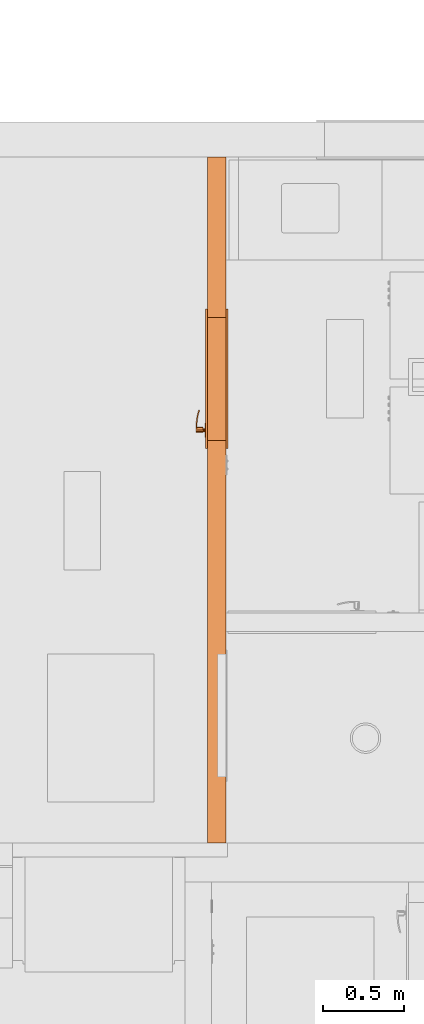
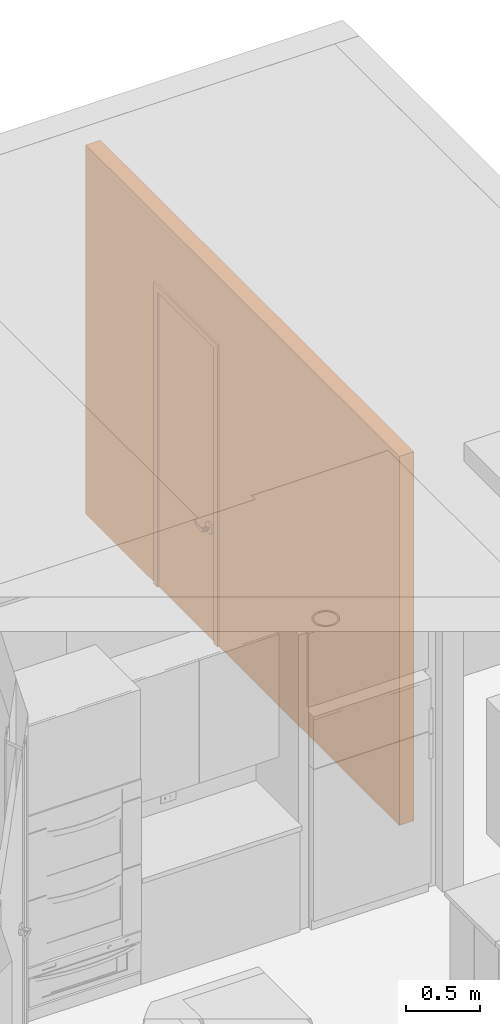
# One storey, part 97 of 103: 2 proxies.
"""IFC2X3 building model written with IfcOpenShell, lengths in inches."""

from ifc_helpers import new_model, entity, si_unit, converted_unit, derived_unit, money_unit, direction, frame, origin_with_axes, place, context, subcontext, project, spatial, open_shell, faceted_brep, surface_model, material, type_object, element, save


model = new_model("IFC2X3")

# Units and contexts
model_context = context("Model", 3, precision=0.00039370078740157, world=origin_with_axes(), true_north=direction((0.0, 1.0)))
plan_context = context("Plan", 3, precision=0.00039370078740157, world=origin_with_axes(), true_north=direction((0.0, 1.0)))
body_context = subcontext(model_context, "Body", "Model", "MODEL_VIEW")
ifc_project = project(units=[converted_unit("LENGTHUNIT", "INCH", entity("IfcPositiveLengthMeasure", 0.0254), si_unit("LENGTHUNIT", "METRE"), dimensions=[1, 0, 0, 0, 0, 0, 0]), converted_unit("AREAUNIT", "SQUARE_FOOT", entity("IfcPositiveLengthMeasure", 0.09290304), si_unit("AREAUNIT", "SQUARE_METRE"), dimensions=[2, 0, 0, 0, 0, 0, 0]), si_unit("PLANEANGLEUNIT", "RADIAN"), si_unit("SOLIDANGLEUNIT", "STERADIAN"), money_unit("USD"), converted_unit("TIMEUNIT", "Year", entity("IfcTimeMeasure", 31557600.0), si_unit("TIMEUNIT", "SECOND"), dimensions=[0, 0, 1, 0, 0, 0, 0]), si_unit("MASSUNIT", "GRAM", prefix="KILO"), si_unit("THERMODYNAMICTEMPERATUREUNIT", "DEGREE_CELSIUS"), si_unit("LUMINOUSINTENSITYUNIT", "LUMEN"), si_unit("ENERGYUNIT", "JOULE", prefix="MEGA"), derived_unit("SPECIFICHEATCAPACITYUNIT", [(si_unit("ENERGYUNIT", "JOULE"), 1), (si_unit("MASSUNIT", "GRAM", prefix="KILO"), -1), (si_unit("THERMODYNAMICTEMPERATUREUNIT", "KELVIN"), -1)])], contexts=[model_context, plan_context])

# Site, building, storey
site_placement = place(None, origin_with_axes())
site = spatial("IfcSite", under=ifc_project, at=site_placement, Name="Site", CompositionType="ELEMENT")
building_placement = place(site_placement, origin_with_axes())
building = spatial("IfcBuilding", under=site, at=building_placement, Name="Building", CompositionType="ELEMENT")
storey_placement = place(building_placement, frame((0.0, 0.0, 127.9999999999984), z_axis=(0.0, 0.0, 1.0), x_axis=(1.0, 0.0, 0.0)))
storey = spatial("IfcBuildingStorey", under=building, at=storey_placement, Name="Second Floor", CompositionType="ELEMENT", Elevation=128.0)

# Proxies
ifc_material = material(Name="Generic - Structural")
building_element_proxy_type_1 = type_object("IfcBuildingElementProxyType", Name="Generic - Structural 4 1/2\"", PredefinedType="NOTDEFINED")
proxy_1_placement = place(storey_placement, frame((164.9999999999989, 401.0009092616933, 0.0), z_axis=(0.0, 0.0, 1.0), x_axis=(0.0, 1.0, 0.0)))
element("IfcBuildingElementProxy", 1, at=proxy_1_placement, inside=storey, type_object=building_element_proxy_type_1, material=ifc_material, Name="SW - 132", context=body_context, shape_type="Brep", body=[
    faceted_brep([(97.99909073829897, 0.0, 0.0), (97.99909073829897, 0.0, 95.9999999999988), (127.9990907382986, 0.0, 95.9999999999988), (127.9990907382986, 0.0, 0.0), (166.9990907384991, 0.0, 0.0), (166.9990907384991, 0.0, 119.9999999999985), (0.0, 0.0, 119.9999999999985), (0.0, 0.0, 0.0), (97.99909073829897, 4.499999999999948, 0.0), (97.99909073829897, 4.499999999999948, 95.9999999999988), (127.9990907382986, 4.499999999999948, 95.9999999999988), (127.9990907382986, 4.499999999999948, 0.0), (166.9990907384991, 4.499999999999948, 0.0), (166.9990907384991, 4.499999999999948, 119.9999999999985), (0.0, 4.499999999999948, 119.9999999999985), (0.0, 4.499999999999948, 0.0)], [[[0, 1, 2, 3, 4, 5, 6, 7]], [[1, 0, 8, 9]], [[2, 1, 9, 10]], [[3, 2, 10, 11]], [[3, 11, 12, 4]], [[5, 4, 12, 13]], [[13, 14, 6, 5]], [[6, 14, 15, 7]], [[8, 0, 7, 15]], [[9, 8, 15, 14, 13, 12, 11, 10]]]),
])
building_element_proxy_type_2 = type_object("IfcBuildingElementProxyType", Name="D1", PredefinedType="NOTDEFINED")
proxy_2_placement = place(storey_placement, frame((164.9999999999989, 498.9999999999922, 0.0), z_axis=(0.0, 0.0, 1.0), x_axis=(0.0, 1.0, 0.0)))
element("IfcBuildingElementProxy", 2, at=proxy_2_placement, inside=storey, type_object=building_element_proxy_type_2, Name="D-09", context=body_context, shape_type="SurfaceModel", body=[
    faceted_brep([(-2.0, 4.99999999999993, 0.0), (0.0, 4.99999999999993, 0.0), (0.0, 4.499999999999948, 0.0), (-2.0, 4.499999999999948, 0.0), (-2.0, 4.999999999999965, 97.99999999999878), (0.0, 4.999999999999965, 95.9999999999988), (0.0, 4.499999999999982, 95.9999999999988), (-2.0, 4.499999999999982, 97.99999999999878)], [[[0, 1, 2, 3]], [[0, 4, 5, 1]], [[1, 5, 6, 2]], [[3, 2, 6, 7]], [[4, 0, 3, 7]], [[5, 4, 7, 6]]]),
    faceted_brep([(31.99999999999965, 4.999999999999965, 97.99999999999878), (29.99999999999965, 4.999999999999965, 95.9999999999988), (29.99999999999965, 4.499999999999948, 95.9999999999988), (31.99999999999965, 4.499999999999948, 97.99999999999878), (31.99999999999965, 4.99999999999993, 0.0), (29.99999999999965, 4.99999999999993, 0.0), (29.99999999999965, 4.499999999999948, 0.0), (31.99999999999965, 4.499999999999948, 0.0)], [[[0, 1, 2, 3]], [[0, 4, 5, 1]], [[1, 5, 6, 2]], [[3, 2, 6, 7]], [[4, 0, 3, 7]], [[5, 4, 7, 6]]]),
    faceted_brep([(-2.0, 4.999999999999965, 97.99999999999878), (0.0, 4.999999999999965, 95.9999999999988), (0.0, 4.499999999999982, 95.9999999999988), (-2.0, 4.499999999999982, 97.99999999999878), (31.99999999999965, 4.999999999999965, 97.99999999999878), (29.99999999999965, 4.999999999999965, 95.9999999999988), (29.99999999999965, 4.499999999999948, 95.9999999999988), (31.99999999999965, 4.499999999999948, 97.99999999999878)], [[[0, 1, 2, 3]], [[0, 4, 5, 1]], [[1, 5, 6, 2]], [[3, 2, 6, 7]], [[4, 0, 3, 7]], [[5, 4, 7, 6]]]),
    faceted_brep([(-2.0, -0.4999999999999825, 0.0), (-2.0, 0.0, 0.0), (0.0, 0.0, 0.0), (0.0, -0.4999999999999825, 0.0), (-2.0, -0.4999999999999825, 97.99999999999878), (-2.0, 0.0, 97.99999999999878), (0.0, 0.0, 95.9999999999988), (0.0, -0.4999999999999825, 95.9999999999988)], [[[0, 1, 2, 3]], [[4, 5, 1, 0]], [[1, 5, 6, 2]], [[3, 2, 6, 7]], [[0, 3, 7, 4]], [[7, 6, 5, 4]]]),
    faceted_brep([(31.99999999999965, -0.4999999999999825, 97.99999999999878), (31.99999999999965, 0.0, 97.99999999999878), (29.99999999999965, 0.0, 95.9999999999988), (29.99999999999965, -0.4999999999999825, 95.9999999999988), (31.99999999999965, -0.4999999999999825, 0.0), (31.99999999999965, 0.0, 0.0), (29.99999999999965, 0.0, 0.0), (29.99999999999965, -0.4999999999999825, 0.0)], [[[0, 1, 2, 3]], [[4, 5, 1, 0]], [[1, 5, 6, 2]], [[3, 2, 6, 7]], [[0, 3, 7, 4]], [[7, 6, 5, 4]]]),
    faceted_brep([(-2.0, -0.4999999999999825, 97.99999999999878), (-2.0, 0.0, 97.99999999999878), (0.0, 0.0, 95.9999999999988), (0.0, -0.4999999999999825, 95.9999999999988), (31.99999999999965, -0.4999999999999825, 97.99999999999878), (31.99999999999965, 0.0, 97.99999999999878), (29.99999999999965, 0.0, 95.9999999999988), (29.99999999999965, -0.4999999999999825, 95.9999999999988)], [[[0, 1, 2, 3]], [[4, 5, 1, 0]], [[1, 5, 6, 2]], [[3, 2, 6, 7]], [[0, 3, 7, 4]], [[7, 6, 5, 4]]]),
    faceted_brep([(0.0, 4.499999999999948, 0.0), (0.5000000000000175, 4.499999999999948, 0.0), (0.5000000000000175, 0.0, 0.0), (0.0, 0.0, 0.0), (0.0, 4.499999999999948, 95.49999999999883), (0.5000000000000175, 4.499999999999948, 95.49999999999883), (0.5000000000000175, 0.0, 95.49999999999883), (0.0, 0.0, 95.49999999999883)], [[[0, 1, 2, 3]], [[0, 4, 5, 1]], [[1, 5, 6, 2]], [[3, 2, 6, 7]], [[4, 0, 3, 7]], [[5, 4, 7, 6]]]),
    faceted_brep([(29.99999999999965, 4.499999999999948, 0.0), (29.99999999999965, 4.499999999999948, 95.49999999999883), (29.99999999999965, 0.0, 95.49999999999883), (29.99999999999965, 0.0, 0.0), (29.49999999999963, 4.499999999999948, 0.0), (29.49999999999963, 4.499999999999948, 95.49999999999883), (29.49999999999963, 0.0, 95.49999999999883), (29.49999999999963, 0.0, 0.0)], [[[0, 1, 2, 3]], [[0, 4, 5, 1]], [[1, 5, 6, 2]], [[3, 2, 6, 7]], [[4, 0, 3, 7]], [[5, 4, 7, 6]]]),
    faceted_brep([(0.0, 4.499999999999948, 95.9999999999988), (0.0, 4.499999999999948, 95.49999999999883), (0.0, 0.0, 95.49999999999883), (0.0, 0.0, 95.9999999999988), (29.99999999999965, 4.499999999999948, 95.9999999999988), (29.99999999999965, 4.499999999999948, 95.49999999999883), (29.49999999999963, 4.499999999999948, 95.49999999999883), (0.5000000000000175, 4.499999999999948, 95.49999999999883), (0.5000000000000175, 0.0, 95.49999999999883), (29.49999999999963, 0.0, 95.49999999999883), (29.99999999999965, 0.0, 95.49999999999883), (29.99999999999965, 0.0, 95.9999999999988)], [[[0, 1, 2, 3]], [[0, 4, 5, 6, 7, 1]], [[1, 7, 8, 2]], [[3, 2, 8, 9, 10, 11]], [[4, 0, 3, 11]], [[5, 4, 11, 10]], [[6, 5, 10, 9]], [[7, 6, 9, 8]]]),
    surface_model("IfcShellBasedSurfaceModel", [(4.051344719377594, 2.159448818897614, 36.89566929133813), (4.291338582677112, 2.159448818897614, 35.99999999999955), (4.291338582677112, 2.16338582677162, 35.99999999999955), (4.051344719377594, 2.16338582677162, 36.89566929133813), (3.39566929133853, 2.159448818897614, 37.55134471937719), (2.499999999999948, 2.159448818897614, 37.79133858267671), (1.604330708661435, 2.159448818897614, 37.55134471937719), (0.948655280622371, 2.159448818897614, 36.89566929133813), (0.7086614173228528, 2.159448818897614, 35.99999999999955), (0.948655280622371, 2.159448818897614, 35.104330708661), (1.604330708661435, 2.159448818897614, 34.44865528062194), (2.499999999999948, 2.159448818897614, 34.20866141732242), (3.39566929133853, 2.159448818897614, 34.44865528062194), (4.051344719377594, 2.159448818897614, 35.104330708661), (4.051344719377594, 2.16338582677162, 35.104330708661), (4.291338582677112, 2.74606299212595, 35.99999999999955), (4.051344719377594, 2.74606299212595, 36.89566929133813), (3.39566929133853, 2.16338582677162, 37.55134471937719), (2.499999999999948, 2.16338582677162, 37.79133858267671), (1.604330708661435, 2.16338582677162, 37.55134471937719), (0.948655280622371, 2.16338582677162, 36.89566929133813), (0.7086614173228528, 2.16338582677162, 35.99999999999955), (0.948655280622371, 2.16338582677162, 35.104330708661), (1.604330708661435, 2.16338582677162, 34.44865528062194), (2.499999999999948, 2.16338582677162, 34.20866141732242), (3.39566929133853, 2.16338582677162, 34.44865528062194), (4.051344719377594, 2.74606299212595, 35.104330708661), (4.291338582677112, 2.749999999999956, 35.99999999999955), (4.051344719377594, 2.749999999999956, 36.89566929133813), (3.39566929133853, 2.74606299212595, 37.55134471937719), (2.499999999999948, 2.74606299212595, 37.79133858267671), (1.604330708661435, 2.74606299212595, 37.55134471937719), (0.948655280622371, 2.74606299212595, 36.89566929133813), (0.7086614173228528, 2.74606299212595, 35.99999999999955), (0.948655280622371, 2.74606299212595, 35.104330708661), (1.604330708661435, 2.74606299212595, 34.44865528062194), (2.499999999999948, 2.74606299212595, 34.20866141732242), (3.39566929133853, 2.74606299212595, 34.44865528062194), (4.051344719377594, 2.749999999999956, 35.104330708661), (3.39566929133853, 2.749999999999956, 37.55134471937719), (2.499999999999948, 2.749999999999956, 37.79133858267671), (1.604330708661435, 2.749999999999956, 37.55134471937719), (0.948655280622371, 2.749999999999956, 36.89566929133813), (0.7086614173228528, 2.749999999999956, 35.99999999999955), (0.948655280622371, 2.749999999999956, 35.104330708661), (1.604330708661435, 2.749999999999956, 34.44865528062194), (2.499999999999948, 2.749999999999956, 34.20866141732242), (3.39566929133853, 2.749999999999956, 34.44865528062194)], [open_shell([[[0, 1, 2, 3]], [[1, 0, 4, 5, 6, 7, 8, 9, 10, 11, 12, 13]], [[1, 13, 14, 2]], [[3, 2, 15, 16]], [[4, 0, 3, 17]], [[5, 4, 17, 18]], [[6, 5, 18, 19]], [[7, 6, 19, 20]], [[8, 7, 20, 21]], [[9, 8, 21, 22]], [[10, 9, 22, 23]], [[11, 10, 23, 24]], [[12, 11, 24, 25]], [[13, 12, 25, 14]], [[2, 14, 26, 15]], [[16, 15, 27, 28]], [[17, 3, 16, 29]], [[18, 17, 29, 30]], [[19, 18, 30, 31]], [[20, 19, 31, 32]], [[21, 20, 32, 33]], [[22, 21, 33, 34]], [[23, 22, 34, 35]], [[24, 23, 35, 36]], [[25, 24, 36, 37]], [[14, 25, 37, 26]], [[15, 26, 38, 27]], [[29, 16, 28, 39]], [[30, 29, 39, 40]], [[31, 30, 40, 41]], [[32, 31, 41, 42]], [[33, 32, 42, 43]], [[34, 33, 43, 44]], [[35, 34, 44, 45]], [[36, 35, 45, 46]], [[37, 36, 46, 47]], [[26, 37, 47, 38]]])]),
    faceted_brep([(2.303149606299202, 2.159448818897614, 35.65904511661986), (2.159045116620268, 2.159448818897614, 35.80314960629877), (2.106299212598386, 2.159448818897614, 35.99999999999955), (2.159045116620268, 2.159448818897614, 36.19685039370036), (2.303149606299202, 2.159448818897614, 36.34095488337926), (2.499999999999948, 2.159448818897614, 36.39370078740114), (2.696850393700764, 2.159448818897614, 36.34095488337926), (2.840954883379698, 2.159448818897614, 36.19685039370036), (2.893700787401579, 2.159448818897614, 35.99999999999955), (2.840954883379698, 2.159448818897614, 35.80314960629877), (2.696850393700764, 2.159448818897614, 35.65904511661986), (2.499999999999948, 2.159448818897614, 35.60629921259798), (2.303149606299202, 1.647637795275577, 35.65904511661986), (2.159045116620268, 1.647637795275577, 35.80314960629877), (2.106299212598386, 1.647637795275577, 35.99999999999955), (2.159045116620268, 1.647637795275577, 36.19685039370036), (2.303149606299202, 1.647637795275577, 36.34095488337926), (2.499999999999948, 1.647637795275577, 36.39370078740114), (2.696850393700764, 1.647637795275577, 36.34095488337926), (2.840954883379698, 1.647637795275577, 36.19685039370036), (2.893700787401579, 1.647637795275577, 35.99999999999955), (2.840954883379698, 1.647637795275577, 35.80314960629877), (2.696850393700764, 1.647637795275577, 35.65904511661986), (2.499999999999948, 1.647637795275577, 35.60629921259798)], [[[0, 1, 2, 3, 4, 5, 6, 7, 8, 9, 10, 11]], [[1, 0, 12, 13]], [[2, 1, 13, 14]], [[3, 2, 14, 15]], [[4, 3, 15, 16]], [[5, 4, 16, 17]], [[6, 5, 17, 18]], [[7, 6, 18, 19]], [[8, 7, 19, 20]], [[9, 8, 20, 21]], [[10, 9, 21, 22]], [[11, 10, 22, 23]], [[0, 11, 23, 12]], [[12, 23, 22, 21, 20, 19, 18, 17, 16, 15, 14, 13]]]),
    faceted_brep([(2.499999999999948, 1.647637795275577, 36.55118110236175), (2.224409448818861, 1.647637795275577, 36.47733683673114), (2.224409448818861, 0.2303149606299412, 36.47733683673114), (2.499999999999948, 0.2303149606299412, 36.55118110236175), (2.893700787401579, 1.647637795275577, 36.47244094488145), (3.126478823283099, 1.647637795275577, 36.35358914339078), (3.262948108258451, 1.647637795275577, 36.13068221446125), (3.262948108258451, 1.647637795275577, 35.86931778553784), (3.126478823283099, 1.647637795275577, 35.64641085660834), (2.893700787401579, 1.647637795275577, 35.52755905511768), (2.499999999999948, 1.647637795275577, 35.44881889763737), (2.224409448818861, 1.647637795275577, 35.52266316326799), (2.022663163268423, 1.647637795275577, 35.72440944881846), (1.948818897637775, 1.647637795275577, 35.99999999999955), (2.022663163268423, 1.647637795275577, 36.27559055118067), (2.022663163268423, 0.2303149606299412, 36.27559055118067), (1.948818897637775, 0.2303149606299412, 35.99999999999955), (2.022663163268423, 0.2303149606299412, 35.72440944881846), (2.224409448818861, 0.2303149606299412, 35.52266316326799), (2.499999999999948, 0.2303149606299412, 35.44881889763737), (2.893700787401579, 0.2303149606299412, 35.52755905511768), (3.126478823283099, 0.2303149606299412, 35.64641085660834), (3.262948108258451, 0.2303149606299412, 35.86931778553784), (3.262948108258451, 0.2303149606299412, 36.13068221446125), (3.126478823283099, 0.2303149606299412, 36.35358914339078), (2.893700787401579, 0.2303149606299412, 36.47244094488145)], [[[0, 1, 2, 3]], [[0, 4, 5, 6, 7, 8, 9, 10, 11, 12, 13, 14, 1]], [[1, 14, 15, 2]], [[3, 2, 15, 16, 17, 18, 19, 20, 21, 22, 23, 24, 25]], [[4, 0, 3, 25]], [[5, 4, 25, 24]], [[6, 5, 24, 23]], [[7, 6, 23, 22]], [[8, 7, 22, 21]], [[9, 8, 21, 20]], [[10, 9, 20, 19]], [[11, 10, 19, 18]], [[12, 11, 18, 17]], [[13, 12, 17, 16]], [[14, 13, 16, 15]]]),
    surface_model("IfcShellBasedSurfaceModel", [(2.499999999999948, 0.2303149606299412, 36.55118110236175), (2.224409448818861, 0.2303149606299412, 36.47733683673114), (2.224409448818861, -0.04527559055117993, 36.47733683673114), (2.499999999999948, -0.04527559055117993, 36.55118110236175), (3.484251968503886, 0.2303149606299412, 36.55118110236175), (3.484251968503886, 0.2303149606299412, 35.44881889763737), (2.499999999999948, 0.2303149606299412, 35.44881889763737), (2.224409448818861, 0.2303149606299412, 35.52266316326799), (2.022663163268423, 0.2303149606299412, 35.72440944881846), (1.948818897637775, 0.2303149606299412, 35.99999999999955), (2.022663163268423, 0.2303149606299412, 36.27559055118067), (2.022663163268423, -0.04527559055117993, 36.27559055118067), (1.948818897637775, -0.04527559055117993, 35.99999999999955), (2.022663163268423, -0.04527559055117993, 35.72440944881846), (2.224409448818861, -0.04527559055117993, 35.52266316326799), (2.499999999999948, -0.04527559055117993, 35.44881889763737), (3.484251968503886, -0.04527559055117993, 35.44881889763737), (3.484251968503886, -0.04527559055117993, 36.55118110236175)], [open_shell([[[0, 1, 2, 3]], [[0, 4, 5, 6, 7, 8, 9, 10, 1]], [[1, 10, 11, 2]], [[3, 2, 11, 12, 13, 14, 15, 16, 17]], [[4, 0, 3, 17]], [[6, 5, 16, 15]], [[7, 6, 15, 14]], [[8, 7, 14, 13]], [[9, 8, 13, 12]], [[10, 9, 12, 11]]])]),
    surface_model("IfcShellBasedSurfaceModel", [(3.484251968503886, 0.2303149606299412, 35.44881889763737), (3.999932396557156, 0.2303149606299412, 35.47974008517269), (4.011964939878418, -0.04527559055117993, 35.47974008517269), (3.484251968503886, 0.2303149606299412, 36.55118110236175), (3.999932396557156, 0.2303149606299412, 36.52025991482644), (5.063374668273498, 0.04671084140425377, 35.54158246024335), (3.484251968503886, -0.04527559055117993, 35.44881889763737), (3.484251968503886, -0.04527559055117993, 36.55118110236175), (5.02736861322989, 0.320203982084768, 36.45841753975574), (5.02736861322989, 0.320203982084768, 35.54158246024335), (5.063374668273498, 0.04671084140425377, 36.45841753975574), (4.011964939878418, -0.04527559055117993, 36.52025991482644), (6.043060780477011, 0.4992979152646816, 36.39657516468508), (6.043060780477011, 0.4992979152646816, 35.60342483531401), (6.102766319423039, 0.2299836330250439, 35.60342483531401), (6.102766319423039, 0.2299836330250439, 36.39657516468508), (7.03927886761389, 0.7662337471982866, 36.33473278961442), (7.03927886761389, 0.7662337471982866, 35.66526721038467), (7.122229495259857, 0.5031479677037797, 35.66526721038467), (7.122229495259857, 0.5031479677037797, 36.33473278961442), (7.349234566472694, 0.8790483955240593, 36.3149606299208), (7.349234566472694, 0.8790483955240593, 35.68503937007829), (7.439417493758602, 0.6185949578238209, 35.68503937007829), (7.439417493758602, 0.6185949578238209, 36.3149606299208)], [open_shell([[[0, 1, 2]], [[0, 3, 4, 1]], [[1, 5, 2]], [[0, 2, 6]], [[4, 3, 7]], [[1, 4, 8, 9]], [[1, 9, 5]], [[2, 5, 10, 11]], [[6, 2, 11, 7]], [[4, 7, 11]], [[8, 4, 11]], [[9, 8, 12, 13]], [[9, 14, 5]], [[5, 14, 15, 10]], [[8, 11, 10]], [[12, 8, 10]], [[13, 12, 16, 17]], [[9, 13, 14]], [[14, 18, 19, 15]], [[12, 10, 15]], [[16, 12, 15]], [[17, 16, 20, 21]], [[13, 17, 18]], [[13, 18, 14]], [[18, 22, 23, 19]], [[16, 15, 19]], [[20, 16, 19]], [[21, 20, 23, 22]], [[17, 21, 22]], [[17, 22, 18]], [[20, 19, 23]]])]),
    surface_model("IfcShellBasedSurfaceModel", [(4.051344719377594, 5.09055118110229, 36.89566929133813), (4.051344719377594, 5.086614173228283, 36.89566929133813), (4.291338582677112, 5.086614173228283, 35.99999999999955), (4.291338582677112, 5.09055118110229, 35.99999999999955), (3.39566929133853, 5.09055118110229, 37.55134471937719), (3.39566929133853, 5.086614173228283, 37.55134471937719), (4.051344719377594, 4.503937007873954, 36.89566929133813), (4.291338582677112, 4.503937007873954, 35.99999999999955), (4.051344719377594, 5.086614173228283, 35.104330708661), (4.051344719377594, 5.09055118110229, 35.104330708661), (3.39566929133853, 5.09055118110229, 34.44865528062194), (2.499999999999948, 5.09055118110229, 34.20866141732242), (1.604330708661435, 5.09055118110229, 34.44865528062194), (0.948655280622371, 5.09055118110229, 35.104330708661), (0.7086614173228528, 5.09055118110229, 35.99999999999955), (0.948655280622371, 5.09055118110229, 36.89566929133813), (1.604330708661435, 5.09055118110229, 37.55134471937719), (2.499999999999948, 5.09055118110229, 37.79133858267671), (2.499999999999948, 5.086614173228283, 37.79133858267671), (3.39566929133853, 4.503937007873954, 37.55134471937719), (4.051344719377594, 4.499999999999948, 36.89566929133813), (4.291338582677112, 4.499999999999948, 35.99999999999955), (4.051344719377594, 4.503937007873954, 35.104330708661), (3.39566929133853, 5.086614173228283, 34.44865528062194), (2.499999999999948, 5.086614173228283, 34.20866141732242), (1.604330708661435, 5.086614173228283, 34.44865528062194), (0.948655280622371, 5.086614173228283, 35.104330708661), (0.7086614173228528, 5.086614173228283, 35.99999999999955), (0.948655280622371, 5.086614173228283, 36.89566929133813), (1.604330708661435, 5.086614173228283, 37.55134471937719), (2.499999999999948, 4.503937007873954, 37.79133858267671), (3.39566929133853, 4.499999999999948, 37.55134471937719), (4.051344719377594, 4.499999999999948, 35.104330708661), (3.39566929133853, 4.503937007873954, 34.44865528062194), (2.499999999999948, 4.503937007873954, 34.20866141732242), (1.604330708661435, 4.503937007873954, 34.44865528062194), (0.948655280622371, 4.503937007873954, 35.104330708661), (0.7086614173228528, 4.503937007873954, 35.99999999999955), (0.948655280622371, 4.503937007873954, 36.89566929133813), (1.604330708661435, 4.503937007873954, 37.55134471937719), (2.499999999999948, 4.499999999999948, 37.79133858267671), (3.39566929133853, 4.499999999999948, 34.44865528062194), (2.499999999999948, 4.499999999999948, 34.20866141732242), (1.604330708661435, 4.499999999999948, 34.44865528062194), (0.948655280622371, 4.499999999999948, 35.104330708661), (0.7086614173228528, 4.499999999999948, 35.99999999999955), (0.948655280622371, 4.499999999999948, 36.89566929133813), (1.604330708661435, 4.499999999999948, 37.55134471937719)], [open_shell([[[0, 1, 2, 3]], [[4, 5, 1, 0]], [[1, 6, 7, 2]], [[3, 2, 8, 9]], [[3, 9, 10, 11, 12, 13, 14, 15, 16, 17, 4, 0]], [[17, 18, 5, 4]], [[5, 19, 6, 1]], [[6, 20, 21, 7]], [[2, 7, 22, 8]], [[9, 8, 23, 10]], [[10, 23, 24, 11]], [[11, 24, 25, 12]], [[12, 25, 26, 13]], [[13, 26, 27, 14]], [[14, 27, 28, 15]], [[15, 28, 29, 16]], [[16, 29, 18, 17]], [[18, 30, 19, 5]], [[19, 31, 20, 6]], [[7, 21, 32, 22]], [[8, 22, 33, 23]], [[23, 33, 34, 24]], [[24, 34, 35, 25]], [[25, 35, 36, 26]], [[26, 36, 37, 27]], [[27, 37, 38, 28]], [[28, 38, 39, 29]], [[29, 39, 30, 18]], [[30, 40, 31, 19]], [[22, 32, 41, 33]], [[33, 41, 42, 34]], [[34, 42, 43, 35]], [[35, 43, 44, 36]], [[36, 44, 45, 37]], [[37, 45, 46, 38]], [[38, 46, 47, 39]], [[39, 47, 40, 30]]])]),
    faceted_brep([(2.303149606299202, 5.09055118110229, 35.65904511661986), (2.499999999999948, 5.09055118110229, 35.60629921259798), (2.696850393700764, 5.09055118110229, 35.65904511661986), (2.840954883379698, 5.09055118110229, 35.80314960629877), (2.893700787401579, 5.09055118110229, 35.99999999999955), (2.840954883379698, 5.09055118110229, 36.19685039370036), (2.696850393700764, 5.09055118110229, 36.34095488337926), (2.499999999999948, 5.09055118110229, 36.39370078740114), (2.303149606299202, 5.09055118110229, 36.34095488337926), (2.159045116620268, 5.09055118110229, 36.19685039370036), (2.106299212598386, 5.09055118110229, 35.99999999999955), (2.159045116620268, 5.09055118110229, 35.80314960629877), (2.303149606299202, 5.602362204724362, 35.65904511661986), (2.499999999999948, 5.602362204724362, 35.60629921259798), (2.696850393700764, 5.602362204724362, 35.65904511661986), (2.840954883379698, 5.602362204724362, 35.80314960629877), (2.893700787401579, 5.602362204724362, 35.99999999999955), (2.840954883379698, 5.602362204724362, 36.19685039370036), (2.696850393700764, 5.602362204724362, 36.34095488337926), (2.499999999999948, 5.602362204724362, 36.39370078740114), (2.303149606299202, 5.602362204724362, 36.34095488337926), (2.159045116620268, 5.602362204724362, 36.19685039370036), (2.106299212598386, 5.602362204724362, 35.99999999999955), (2.159045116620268, 5.602362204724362, 35.80314960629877)], [[[0, 1, 2, 3, 4, 5, 6, 7, 8, 9, 10, 11]], [[0, 12, 13, 1]], [[1, 13, 14, 2]], [[2, 14, 15, 3]], [[3, 15, 16, 4]], [[4, 16, 17, 5]], [[5, 17, 18, 6]], [[6, 18, 19, 7]], [[7, 19, 20, 8]], [[8, 20, 21, 9]], [[9, 21, 22, 10]], [[10, 22, 23, 11]], [[11, 23, 12, 0]], [[12, 23, 22, 21, 20, 19, 18, 17, 16, 15, 14, 13]]]),
    faceted_brep([(2.499999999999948, 5.602362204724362, 36.55118110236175), (2.499999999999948, 7.019685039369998, 36.55118110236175), (2.224409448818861, 7.019685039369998, 36.47733683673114), (2.224409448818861, 5.602362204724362, 36.47733683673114), (2.893700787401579, 5.602362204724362, 36.47244094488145), (2.893700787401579, 7.019685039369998, 36.47244094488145), (3.126478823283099, 7.019685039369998, 36.35358914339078), (3.262948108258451, 7.019685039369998, 36.13068221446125), (3.262948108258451, 7.019685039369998, 35.86931778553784), (3.126478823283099, 7.019685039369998, 35.64641085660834), (2.893700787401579, 7.019685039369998, 35.52755905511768), (2.499999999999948, 7.019685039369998, 35.44881889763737), (2.224409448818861, 7.019685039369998, 35.52266316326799), (2.022663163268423, 7.019685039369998, 35.72440944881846), (1.948818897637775, 7.019685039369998, 35.99999999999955), (2.022663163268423, 7.019685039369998, 36.27559055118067), (2.022663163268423, 5.602362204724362, 36.27559055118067), (1.948818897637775, 5.602362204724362, 35.99999999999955), (2.022663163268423, 5.602362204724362, 35.72440944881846), (2.224409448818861, 5.602362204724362, 35.52266316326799), (2.499999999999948, 5.602362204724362, 35.44881889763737), (2.893700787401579, 5.602362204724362, 35.52755905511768), (3.126478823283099, 5.602362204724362, 35.64641085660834), (3.262948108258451, 5.602362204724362, 35.86931778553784), (3.262948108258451, 5.602362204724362, 36.13068221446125), (3.126478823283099, 5.602362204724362, 36.35358914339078)], [[[0, 1, 2, 3]], [[4, 5, 1, 0]], [[1, 5, 6, 7, 8, 9, 10, 11, 12, 13, 14, 15, 2]], [[3, 2, 15, 16]], [[0, 3, 16, 17, 18, 19, 20, 21, 22, 23, 24, 25, 4]], [[25, 6, 5, 4]], [[24, 7, 6, 25]], [[23, 8, 7, 24]], [[22, 9, 8, 23]], [[21, 10, 9, 22]], [[20, 11, 10, 21]], [[19, 12, 11, 20]], [[18, 13, 12, 19]], [[17, 14, 13, 18]], [[16, 15, 14, 17]]]),
    surface_model("IfcShellBasedSurfaceModel", [(2.499999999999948, 7.019685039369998, 36.55118110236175), (2.499999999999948, 7.295275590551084, 36.55118110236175), (2.224409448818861, 7.295275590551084, 36.47733683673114), (2.224409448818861, 7.019685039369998, 36.47733683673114), (3.484251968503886, 7.019685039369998, 36.55118110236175), (3.484251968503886, 7.295275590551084, 36.55118110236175), (3.484251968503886, 7.295275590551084, 35.44881889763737), (2.499999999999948, 7.295275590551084, 35.44881889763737), (2.224409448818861, 7.295275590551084, 35.52266316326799), (2.022663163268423, 7.295275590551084, 35.72440944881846), (1.948818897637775, 7.295275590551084, 35.99999999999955), (2.022663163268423, 7.295275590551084, 36.27559055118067), (2.022663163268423, 7.019685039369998, 36.27559055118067), (1.948818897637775, 7.019685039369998, 35.99999999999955), (2.022663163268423, 7.019685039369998, 35.72440944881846), (2.224409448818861, 7.019685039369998, 35.52266316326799), (2.499999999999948, 7.019685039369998, 35.44881889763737), (3.484251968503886, 7.019685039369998, 35.44881889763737)], [open_shell([[[0, 1, 2, 3]], [[4, 5, 1, 0]], [[1, 5, 6, 7, 8, 9, 10, 11, 2]], [[3, 2, 11, 12]], [[0, 3, 12, 13, 14, 15, 16, 17, 4]], [[16, 7, 6, 17]], [[15, 8, 7, 16]], [[14, 9, 8, 15]], [[13, 10, 9, 14]], [[12, 11, 10, 13]]])]),
    surface_model("IfcShellBasedSurfaceModel", [(3.484251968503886, 7.019685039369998, 35.44881889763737), (4.011964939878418, 7.295275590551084, 35.47974008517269), (3.999932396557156, 7.019685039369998, 35.47974008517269), (3.484251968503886, 7.295275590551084, 35.44881889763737), (5.063374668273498, 7.20328915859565, 35.54158246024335), (3.999932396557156, 7.019685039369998, 36.52025991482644), (3.484251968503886, 7.019685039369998, 36.55118110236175), (3.484251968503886, 7.295275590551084, 36.55118110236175), (4.011964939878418, 7.295275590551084, 36.52025991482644), (5.063374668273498, 7.20328915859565, 36.45841753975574), (5.02736861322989, 6.929796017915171, 35.54158246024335), (5.02736861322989, 6.929796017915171, 36.45841753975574), (6.102766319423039, 7.020016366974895, 36.39657516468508), (6.102766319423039, 7.020016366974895, 35.60342483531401), (6.043060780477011, 6.750702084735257, 35.60342483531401), (6.043060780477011, 6.750702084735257, 36.39657516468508), (7.122229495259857, 6.746852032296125, 36.33473278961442), (7.122229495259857, 6.746852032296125, 35.66526721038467), (7.03927886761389, 6.483766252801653, 35.66526721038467), (7.03927886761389, 6.483766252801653, 36.33473278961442), (7.439417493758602, 6.631405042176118, 36.3149606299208), (7.439417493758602, 6.631405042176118, 35.68503937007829), (7.349234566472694, 6.37095160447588, 35.68503937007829), (7.349234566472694, 6.37095160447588, 36.3149606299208)], [open_shell([[[0, 1, 2]], [[0, 3, 1]], [[2, 1, 4]], [[0, 2, 5, 6]], [[3, 7, 8, 1]], [[1, 8, 9, 4]], [[2, 4, 10]], [[2, 10, 11, 5]], [[5, 7, 6]], [[5, 8, 7]], [[11, 9, 8]], [[4, 9, 12, 13]], [[10, 4, 13]], [[10, 14, 15, 11]], [[11, 8, 5]], [[15, 9, 11]], [[15, 12, 9]], [[13, 12, 16, 17]], [[10, 13, 14]], [[14, 18, 19, 15]], [[19, 12, 15]], [[19, 16, 12]], [[17, 16, 20, 21]], [[14, 13, 17]], [[14, 17, 18]], [[18, 22, 23, 19]], [[23, 16, 19]], [[23, 20, 16]], [[22, 21, 20, 23]], [[18, 17, 21]], [[18, 21, 22]]])]),
    faceted_brep([(0.5393700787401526, 2.749999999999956, 0.03937007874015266), (29.4606299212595, 2.749999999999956, 0.03937007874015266), (29.4606299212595, 2.749999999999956, 95.46062992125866), (0.5393700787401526, 2.749999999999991, 95.46062992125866), (29.4606299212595, 4.499999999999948, 0.03937007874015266), (0.5393700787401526, 4.499999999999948, 0.03937007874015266), (29.4606299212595, 4.499999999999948, 95.46062992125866), (0.5393700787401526, 4.499999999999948, 95.46062992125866)], [[[0, 1, 2, 3]], [[4, 1, 0, 5]], [[1, 4, 6, 2]], [[2, 6, 7, 3]], [[5, 0, 3, 7]], [[4, 5, 7, 6]]]),
    faceted_brep([(29.49999999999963, 4.499999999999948, 0.0), (29.49999999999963, 2.749999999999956, 0.0), (0.5000000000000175, 2.749999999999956, 0.0), (0.5000000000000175, 4.499999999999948, 0.0), (29.49999999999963, 4.499999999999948, 95.49999999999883), (29.49999999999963, 2.749999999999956, 95.49999999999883), (0.5000000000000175, 2.749999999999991, 95.49999999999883), (29.4606299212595, 2.749999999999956, 0.03937007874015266), (0.5393700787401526, 2.749999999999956, 0.03937007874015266), (0.5393700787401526, 2.749999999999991, 95.46062992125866), (29.4606299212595, 2.749999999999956, 95.46062992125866), (0.5000000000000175, 4.499999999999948, 95.49999999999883), (29.4606299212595, 4.499999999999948, 0.03937007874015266), (29.4606299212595, 4.499999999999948, 95.46062992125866), (0.5393700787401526, 4.499999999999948, 95.46062992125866), (0.5393700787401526, 4.499999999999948, 0.03937007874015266)], [[[0, 1, 2, 3]], [[4, 5, 1, 0]], [[1, 5, 6, 2], [7, 8, 9, 10]], [[3, 2, 6, 11]], [[0, 3, 11, 4], [12, 13, 14, 15]], [[11, 6, 5, 4]], [[15, 8, 7, 12]], [[14, 9, 8, 15]], [[13, 10, 9, 14]], [[12, 7, 10, 13]]]),
])

save(model, "model.ifc")
